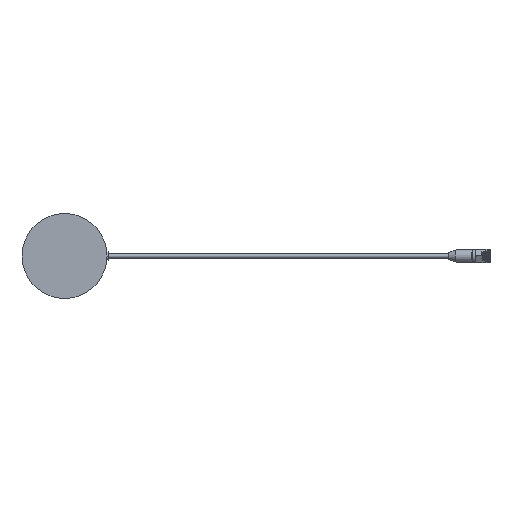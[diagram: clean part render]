
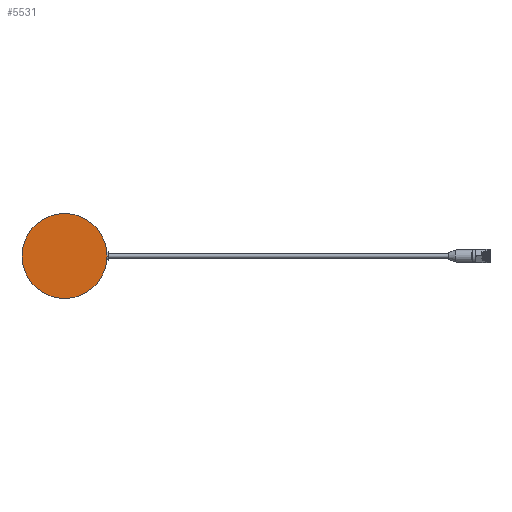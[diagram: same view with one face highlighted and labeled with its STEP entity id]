
A CAD part, front view. The second image highlights one B-rep face of the part: STEP entity #5531.
In plain terms, the highlighted planar face has unit normal (0, -1, 0).
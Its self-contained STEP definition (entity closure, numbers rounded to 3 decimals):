
#681 = DIRECTION ( 'NONE',  ( 0., 0., -1. ) ) ;
#682 = CARTESIAN_POINT ( 'NONE',  ( 0., 0., -25. ) ) ;
#763 = CARTESIAN_POINT ( 'NONE',  ( 0., 0., 0. ) ) ;
#1561 = EDGE_LOOP ( 'NONE', ( #10638, #8720 ) ) ;
#1776 = PLANE ( 'NONE',  #7573 ) ;
#3514 = AXIS2_PLACEMENT_3D ( 'NONE', #763, #4265, #6021 ) ;
#3614 = DIRECTION ( 'NONE',  ( 0., 0., -1. ) ) ;
#3931 = CARTESIAN_POINT ( 'NONE',  ( 0., 0., 25. ) ) ;
#4184 = DIRECTION ( 'NONE',  ( 0., -1., 0. ) ) ;
#4265 = DIRECTION ( 'NONE',  ( 0., -1., 0. ) ) ;
#4372 = CARTESIAN_POINT ( 'NONE',  ( 0., 0., 0. ) ) ;
#5007 = CARTESIAN_POINT ( 'NONE',  ( 0., 0., 0. ) ) ;
#5217 = CIRCLE ( 'NONE', #3514, 25. ) ;
#5358 = DIRECTION ( 'NONE',  ( 0., -1., 0. ) ) ;
#5531 = ADVANCED_FACE ( 'NONE', ( #9483 ), #1776, .T. ) ;
#6021 = DIRECTION ( 'NONE',  ( 0., 0., -1. ) ) ;
#7573 = AXIS2_PLACEMENT_3D ( 'NONE', #4372, #5358, #3614 ) ;
#7587 = EDGE_CURVE ( 'NONE', #7777, #7901, #10471, .T. ) ;
#7777 = VERTEX_POINT ( 'NONE', #3931 ) ;
#7901 = VERTEX_POINT ( 'NONE', #682 ) ;
#8632 = EDGE_CURVE ( 'NONE', #7901, #7777, #5217, .T. ) ;
#8720 = ORIENTED_EDGE ( 'NONE', *, *, #7587, .T. ) ;
#9483 = FACE_OUTER_BOUND ( 'NONE', #1561, .T. ) ;
#9662 = AXIS2_PLACEMENT_3D ( 'NONE', #5007, #4184, #681 ) ;
#10471 = CIRCLE ( 'NONE', #9662, 25. ) ;
#10638 = ORIENTED_EDGE ( 'NONE', *, *, #8632, .T. ) ;
